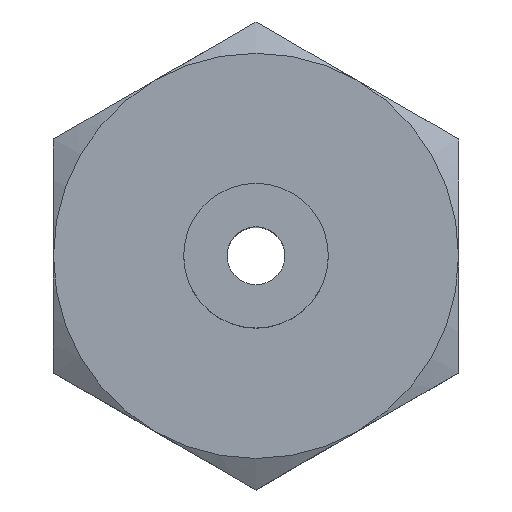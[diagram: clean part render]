
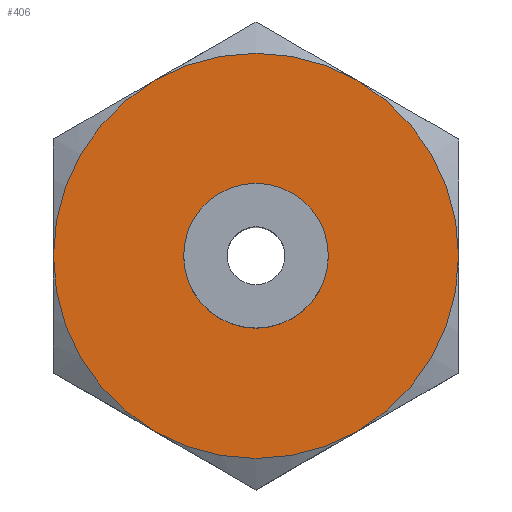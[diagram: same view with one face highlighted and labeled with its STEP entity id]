
A CAD part, top view. The second image highlights one B-rep face of the part: STEP entity #406.
In plain terms, the highlighted planar face has unit normal (0, 0, 1).
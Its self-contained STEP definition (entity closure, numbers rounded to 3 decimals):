
#15=FACE_BOUND('',#106,.T.);
#19=PLANE('',#470);
#79=FACE_OUTER_BOUND('',#105,.T.);
#105=EDGE_LOOP('',(#305,#306,#307,#308,#309,#310));
#106=EDGE_LOOP('',(#311,#312));
#149=CIRCLE('',#459,7.);
#150=CIRCLE('',#461,7.);
#151=CIRCLE('',#463,7.);
#152=CIRCLE('',#465,7.);
#153=CIRCLE('',#467,7.);
#154=CIRCLE('',#469,7.);
#155=CIRCLE('',#471,2.5);
#156=CIRCLE('',#472,2.5);
#179=VERTEX_POINT('',#673);
#180=VERTEX_POINT('',#677);
#181=VERTEX_POINT('',#683);
#183=VERTEX_POINT('',#693);
#186=VERTEX_POINT('',#704);
#187=VERTEX_POINT('',#713);
#190=VERTEX_POINT('',#732);
#191=VERTEX_POINT('',#733);
#223=EDGE_CURVE('',#180,#179,#149,.T.);
#225=EDGE_CURVE('',#181,#180,#150,.T.);
#228=EDGE_CURVE('',#183,#181,#151,.T.);
#232=EDGE_CURVE('',#179,#186,#152,.T.);
#234=EDGE_CURVE('',#187,#183,#153,.T.);
#238=EDGE_CURVE('',#186,#187,#154,.T.);
#239=EDGE_CURVE('',#190,#191,#155,.T.);
#240=EDGE_CURVE('',#191,#190,#156,.T.);
#305=ORIENTED_EDGE('',*,*,#232,.F.);
#306=ORIENTED_EDGE('',*,*,#223,.F.);
#307=ORIENTED_EDGE('',*,*,#225,.F.);
#308=ORIENTED_EDGE('',*,*,#228,.F.);
#309=ORIENTED_EDGE('',*,*,#234,.F.);
#310=ORIENTED_EDGE('',*,*,#238,.F.);
#311=ORIENTED_EDGE('',*,*,#239,.T.);
#312=ORIENTED_EDGE('',*,*,#240,.T.);
#406=ADVANCED_FACE('',(#79,#15),#19,.F.);
#459=AXIS2_PLACEMENT_3D('',#681,#534,#535);
#461=AXIS2_PLACEMENT_3D('',#688,#538,#539);
#463=AXIS2_PLACEMENT_3D('',#698,#542,#543);
#465=AXIS2_PLACEMENT_3D('',#711,#546,#547);
#467=AXIS2_PLACEMENT_3D('',#718,#550,#551);
#469=AXIS2_PLACEMENT_3D('',#730,#554,#555);
#470=AXIS2_PLACEMENT_3D('',#731,#556,#557);
#471=AXIS2_PLACEMENT_3D('',#734,#558,#559);
#472=AXIS2_PLACEMENT_3D('',#735,#560,#561);
#534=DIRECTION('center_axis',(0.,0.,-1.));
#535=DIRECTION('ref_axis',(1.,0.,0.));
#538=DIRECTION('center_axis',(0.,0.,-1.));
#539=DIRECTION('ref_axis',(1.,0.,0.));
#542=DIRECTION('center_axis',(0.,0.,-1.));
#543=DIRECTION('ref_axis',(1.,0.,0.));
#546=DIRECTION('center_axis',(0.,0.,-1.));
#547=DIRECTION('ref_axis',(1.,0.,0.));
#550=DIRECTION('center_axis',(0.,0.,-1.));
#551=DIRECTION('ref_axis',(1.,0.,0.));
#554=DIRECTION('center_axis',(0.,0.,-1.));
#555=DIRECTION('ref_axis',(1.,0.,0.));
#556=DIRECTION('center_axis',(0.,0.,-1.));
#557=DIRECTION('ref_axis',(-1.,0.,0.));
#558=DIRECTION('center_axis',(0.,0.,-1.));
#559=DIRECTION('ref_axis',(1.,0.,0.));
#560=DIRECTION('center_axis',(0.,0.,-1.));
#561=DIRECTION('ref_axis',(1.,0.,0.));
#673=CARTESIAN_POINT('',(3.5,-6.062,10.5));
#677=CARTESIAN_POINT('',(7.,0.,10.5));
#681=CARTESIAN_POINT('Origin',(0.,0.,10.5));
#683=CARTESIAN_POINT('',(3.5,6.062,10.5));
#688=CARTESIAN_POINT('Origin',(0.,0.,10.5));
#693=CARTESIAN_POINT('',(-3.5,6.062,10.5));
#698=CARTESIAN_POINT('Origin',(0.,0.,10.5));
#704=CARTESIAN_POINT('',(-3.5,-6.062,10.5));
#711=CARTESIAN_POINT('Origin',(0.,0.,10.5));
#713=CARTESIAN_POINT('',(-7.,0.,10.5));
#718=CARTESIAN_POINT('Origin',(0.,0.,10.5));
#730=CARTESIAN_POINT('Origin',(0.,0.,10.5));
#731=CARTESIAN_POINT('Origin',(0.,-2.5,10.5));
#732=CARTESIAN_POINT('',(0.,-2.5,10.5));
#733=CARTESIAN_POINT('',(0.,2.5,10.5));
#734=CARTESIAN_POINT('Origin',(0.,0.,10.5));
#735=CARTESIAN_POINT('Origin',(0.,0.,10.5));
